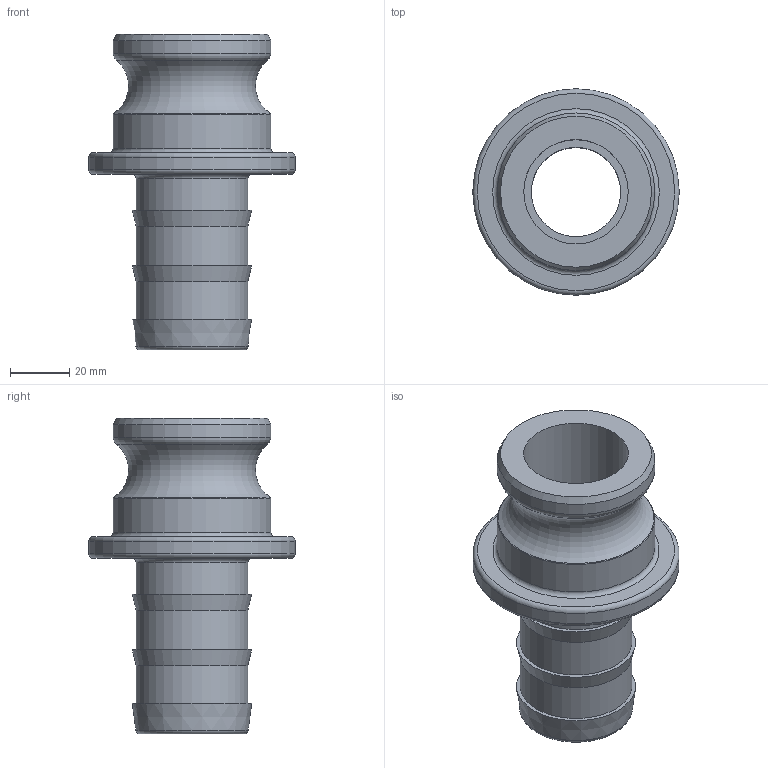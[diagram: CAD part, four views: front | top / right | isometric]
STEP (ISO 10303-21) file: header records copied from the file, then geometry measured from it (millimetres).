
FILE_DESCRIPTION(/* description */ ('Alibre Inc.'),/* implementation_level */ '2;1');
FILE_NAME(/* name */ 'export0',/* time_stamp */ '2016-03-25T17:53:08-04:00',/* author */ (''),/* organization */ (''),/* preprocessor_version */ 'ST-DEVELOPER v14',/* originating_system */ 'Alibre',/* authorisation */ '');
FILE_SCHEMA (('CONFIG_CONTROL_DESIGN'));
Length unit declared in the file: centimetre
Products named in the file (1): ID_1
Bounding box: 69.85 x 69.85 x 106.93 mm (x, y, z)
Volume: 87599.8 mm3; surface area: 32375.2 mm2
Topology: 1 solids, 1 shells, 29 faces, 52 edges, 31 vertices
Faces by surface type: torus 9, plane 8, cylinder 8, cone 4
Full cylindrical faces by diameter (mm): 30.226 x1, 35.344 x1, 37.731 x3, 53.34 x2, 69.85 x1
Entity records: 647 total; most frequent: DIRECTION 96, CARTESIAN_POINT 85, ORIENTED_EDGE 58, EDGE_LOOP 58, FACE_BOUND 58, AXIS2_PLACEMENT_3D 56, VERTEX_POINT 29, CIRCLE 29
